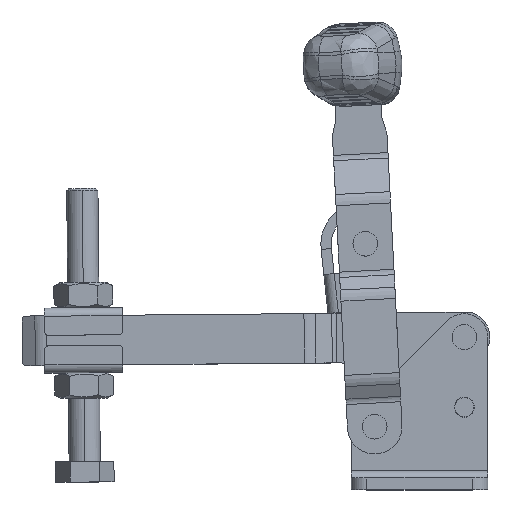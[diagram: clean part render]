
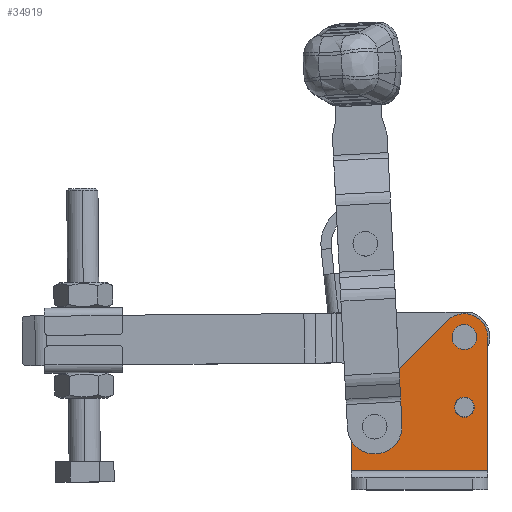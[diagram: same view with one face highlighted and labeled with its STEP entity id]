
A CAD part, top view. The second image highlights one B-rep face of the part: STEP entity #34919.
In plain terms, the highlighted planar face has unit normal (0, 0, 1).
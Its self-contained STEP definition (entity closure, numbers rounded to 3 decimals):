
#38 = FACE_BOUND ( 'NONE', #9881, .T. ) ;
#320 = DIRECTION ( 'NONE',  ( 0., -1., 0. ) ) ;
#905 = DIRECTION ( 'NONE',  ( 0., 0., 1. ) ) ;
#1777 = AXIS2_PLACEMENT_3D ( 'NONE', #2681, #23199, #5647 ) ;
#2255 = CARTESIAN_POINT ( 'NONE',  ( 29., 21.925, 16.425 ) ) ;
#2681 = CARTESIAN_POINT ( 'NONE',  ( 29., 21.925, 16.425 ) ) ;
#2999 = VERTEX_POINT ( 'NONE', #5263 ) ;
#3229 = CARTESIAN_POINT ( 'NONE',  ( 0., 5.749, 16.425 ) ) ;
#3965 = ORIENTED_EDGE ( 'NONE', *, *, #25981, .F. ) ;
#3994 = CARTESIAN_POINT ( 'NONE',  ( 0., -12.075, 16.425 ) ) ;
#4060 = AXIS2_PLACEMENT_3D ( 'NONE', #6502, #27006, #9465 ) ;
#5225 = DIRECTION ( 'NONE',  ( 0., -1., 0. ) ) ;
#5263 = CARTESIAN_POINT ( 'NONE',  ( 29., 24.475, 16.425 ) ) ;
#5269 = VERTEX_POINT ( 'NONE', #22926 ) ;
#5396 = ORIENTED_EDGE ( 'NONE', *, *, #6779, .F. ) ;
#5647 = DIRECTION ( 'NONE',  ( 0., -1., 0. ) ) ;
#6114 = EDGE_CURVE ( 'NONE', #7976, #16223, #37311, .T. ) ;
#6186 = VECTOR ( 'NONE', #35889, 1000. ) ;
#6460 = AXIS2_PLACEMENT_3D ( 'NONE', #18476, #905, #21426 ) ;
#6502 = CARTESIAN_POINT ( 'NONE',  ( 29., 39.925, 16.425 ) ) ;
#6517 = EDGE_LOOP ( 'NONE', ( #30633, #5396 ) ) ;
#6779 = EDGE_CURVE ( 'NONE', #2999, #30530, #18555, .T. ) ;
#6931 = DIRECTION ( 'NONE',  ( 0., -1., 0. ) ) ;
#6953 = CARTESIAN_POINT ( 'NONE',  ( 29., 42.325, 16.425 ) ) ;
#7646 = VECTOR ( 'NONE', #13302, 1000. ) ;
#7846 = FACE_OUTER_BOUND ( 'NONE', #20923, .T. ) ;
#7976 = VERTEX_POINT ( 'NONE', #33787 ) ;
#7983 = VECTOR ( 'NONE', #8540, 1000. ) ;
#8412 = CARTESIAN_POINT ( 'NONE',  ( 29., 5.749, 16.425 ) ) ;
#8540 = DIRECTION ( 'NONE',  ( -1., 0., 0. ) ) ;
#8983 = ORIENTED_EDGE ( 'NONE', *, *, #23338, .T. ) ;
#9144 = ORIENTED_EDGE ( 'NONE', *, *, #22196, .T. ) ;
#9465 = DIRECTION ( 'NONE',  ( 0., -1., 0. ) ) ;
#9503 = AXIS2_PLACEMENT_3D ( 'NONE', #2255, #22768, #5225 ) ;
#9708 = EDGE_CURVE ( 'NONE', #16223, #5269, #21606, .T. ) ;
#9881 = EDGE_LOOP ( 'NONE', ( #34818, #3965 ) ) ;
#10086 = CARTESIAN_POINT ( 'NONE',  ( 0., 19.425, 16.425 ) ) ;
#10332 = CARTESIAN_POINT ( 'NONE',  ( 6., 16.925, 16.425 ) ) ;
#10342 = CARTESIAN_POINT ( 'NONE',  ( 35., 39.925, 16.425 ) ) ;
#10465 = CIRCLE ( 'NONE', #4060, 2.4 ) ;
#10640 = PLANE ( 'NONE',  #30239 ) ;
#11447 = LINE ( 'NONE', #3994, #18326 ) ;
#11913 = CIRCLE ( 'NONE', #6460, 2.4 ) ;
#12268 = AXIS2_PLACEMENT_3D ( 'NONE', #10332, #30801, #13292 ) ;
#13292 = DIRECTION ( 'NONE',  ( 0., -1., 0. ) ) ;
#13302 = DIRECTION ( 'NONE',  ( -0.707, -0.707, 0. ) ) ;
#13601 = CARTESIAN_POINT ( 'NONE',  ( 6., 16.925, 16.425 ) ) ;
#13605 = DIRECTION ( 'NONE',  ( 0., 0., 1. ) ) ;
#13621 = VERTEX_POINT ( 'NONE', #20038 ) ;
#14684 = EDGE_CURVE ( 'NONE', #22572, #13621, #28581, .T. ) ;
#14981 = VERTEX_POINT ( 'NONE', #3229 ) ;
#15789 = LINE ( 'NONE', #8412, #7983 ) ;
#16223 = VERTEX_POINT ( 'NONE', #10342 ) ;
#16526 = DIRECTION ( 'NONE',  ( 0., -1., 0. ) ) ;
#17867 = DIRECTION ( 'NONE',  ( 0., 0., 1. ) ) ;
#18326 = VECTOR ( 'NONE', #6931, 1000. ) ;
#18476 = CARTESIAN_POINT ( 'NONE',  ( 29., 39.925, 16.425 ) ) ;
#18555 = CIRCLE ( 'NONE', #1777, 2.55 ) ;
#18788 = EDGE_CURVE ( 'NONE', #31236, #32320, #11913, .T. ) ;
#19354 = CARTESIAN_POINT ( 'NONE',  ( 29., 39.925, 16.425 ) ) ;
#20038 = CARTESIAN_POINT ( 'NONE',  ( 6., 19.325, 16.425 ) ) ;
#20522 = EDGE_CURVE ( 'NONE', #32320, #31236, #10465, .T. ) ;
#20923 = EDGE_LOOP ( 'NONE', ( #22183, #23305, #29098, #9144, #8983 ) ) ;
#21426 = DIRECTION ( 'NONE',  ( 0., -1., 0. ) ) ;
#21606 = CIRCLE ( 'NONE', #37334, 6. ) ;
#21661 = ORIENTED_EDGE ( 'NONE', *, *, #20522, .F. ) ;
#22148 = VERTEX_POINT ( 'NONE', #10086 ) ;
#22183 = ORIENTED_EDGE ( 'NONE', *, *, #28888, .F. ) ;
#22196 = EDGE_CURVE ( 'NONE', #5269, #22148, #31001, .T. ) ;
#22247 = EDGE_CURVE ( 'NONE', #30530, #2999, #22327, .T. ) ;
#22327 = CIRCLE ( 'NONE', #9503, 2.55 ) ;
#22572 = VERTEX_POINT ( 'NONE', #24172 ) ;
#22768 = DIRECTION ( 'NONE',  ( 0., 0., 1. ) ) ;
#22926 = CARTESIAN_POINT ( 'NONE',  ( 24.759, 44.169, 16.425 ) ) ;
#23199 = DIRECTION ( 'NONE',  ( 0., 0., 1. ) ) ;
#23305 = ORIENTED_EDGE ( 'NONE', *, *, #6114, .T. ) ;
#23338 = EDGE_CURVE ( 'NONE', #22148, #14981, #11447, .T. ) ;
#23719 = CIRCLE ( 'NONE', #35342, 2.4 ) ;
#24172 = CARTESIAN_POINT ( 'NONE',  ( 6., 14.525, 16.425 ) ) ;
#25981 = EDGE_CURVE ( 'NONE', #13621, #22572, #23719, .T. ) ;
#27006 = DIRECTION ( 'NONE',  ( 0., 0., 1. ) ) ;
#28581 = CIRCLE ( 'NONE', #12268, 2.4 ) ;
#28888 = EDGE_CURVE ( 'NONE', #7976, #14981, #15789, .T. ) ;
#29050 = CARTESIAN_POINT ( 'NONE',  ( 29., 37.525, 16.425 ) ) ;
#29098 = ORIENTED_EDGE ( 'NONE', *, *, #9708, .T. ) ;
#30239 = AXIS2_PLACEMENT_3D ( 'NONE', #19354, #13605, #34028 ) ;
#30279 = FACE_BOUND ( 'NONE', #37797, .T. ) ;
#30530 = VERTEX_POINT ( 'NONE', #34006 ) ;
#30633 = ORIENTED_EDGE ( 'NONE', *, *, #22247, .F. ) ;
#30801 = DIRECTION ( 'NONE',  ( 0., 0., 1. ) ) ;
#31001 = LINE ( 'NONE', #33724, #7646 ) ;
#31191 = FACE_BOUND ( 'NONE', #6517, .T. ) ;
#31236 = VERTEX_POINT ( 'NONE', #6953 ) ;
#32320 = VERTEX_POINT ( 'NONE', #29050 ) ;
#32913 = CARTESIAN_POINT ( 'NONE',  ( 35., -12.075, 16.425 ) ) ;
#33724 = CARTESIAN_POINT ( 'NONE',  ( 0., 19.425, 16.425 ) ) ;
#33787 = CARTESIAN_POINT ( 'NONE',  ( 35., 5.749, 16.425 ) ) ;
#34006 = CARTESIAN_POINT ( 'NONE',  ( 29., 19.375, 16.425 ) ) ;
#34024 = DIRECTION ( 'NONE',  ( 0., 0., 1. ) ) ;
#34028 = DIRECTION ( 'NONE',  ( 0., -1., 0. ) ) ;
#34818 = ORIENTED_EDGE ( 'NONE', *, *, #14684, .F. ) ;
#34919 = ADVANCED_FACE ( 'NONE', ( #7846, #30279, #38, #31191 ), #10640, .T. ) ;
#34994 = ORIENTED_EDGE ( 'NONE', *, *, #18788, .F. ) ;
#35342 = AXIS2_PLACEMENT_3D ( 'NONE', #13601, #34024, #16526 ) ;
#35350 = CARTESIAN_POINT ( 'NONE',  ( 29., 39.925, 16.425 ) ) ;
#35889 = DIRECTION ( 'NONE',  ( 0., 1., 0. ) ) ;
#37311 = LINE ( 'NONE', #32913, #6186 ) ;
#37334 = AXIS2_PLACEMENT_3D ( 'NONE', #35350, #17867, #320 ) ;
#37797 = EDGE_LOOP ( 'NONE', ( #21661, #34994 ) ) ;
